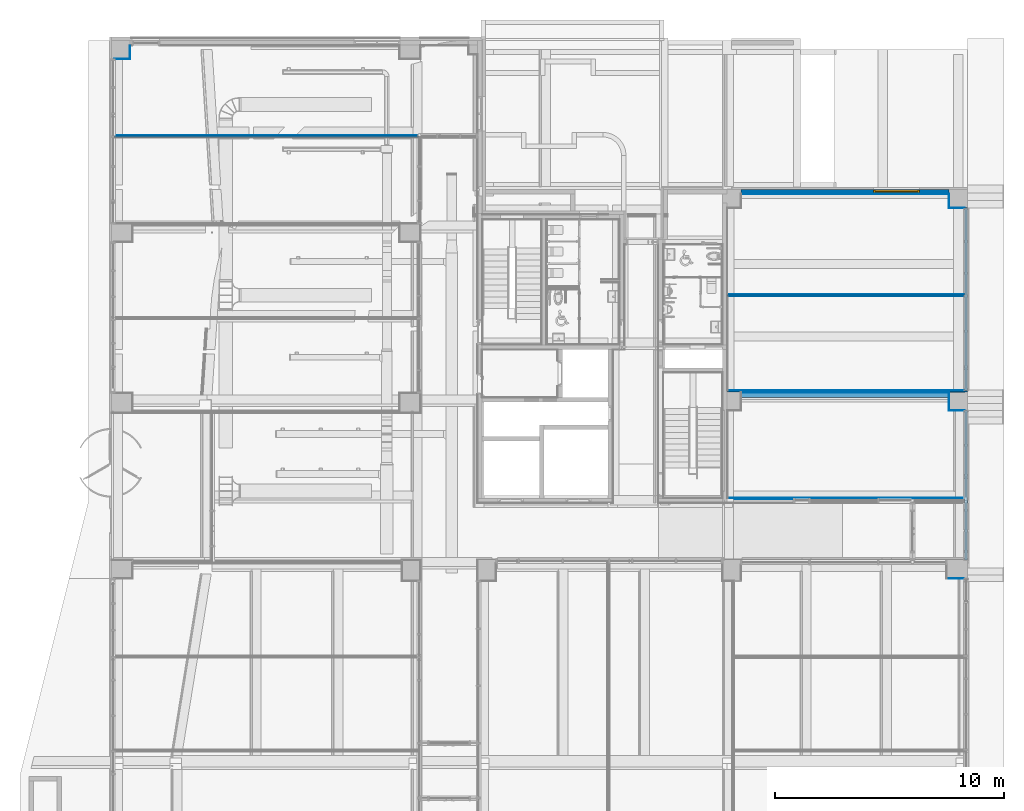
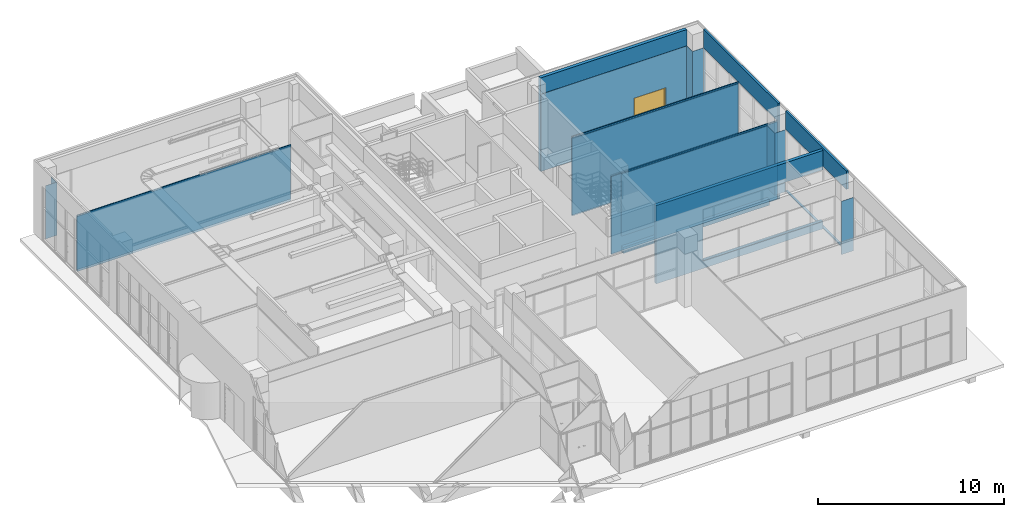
# One storey, part 52 of 100: 22 walls, 1 window, 7 openings.
"""IFC2X3 building model written with IfcOpenShell, lengths in millimetres."""

from ifc_helpers import new_model, entity, si_unit, converted_unit, derived_unit, direction, frame, frame_2d, origin, place, context, subcontext, project, spatial, polyline, rectangle, extrude, clip, bounded_halfspace, faceted_brep, source, transform, mapped, material, material_list, layer, layer_set, layer_usage, type_object, type_shapes, element, fill, save


model = new_model("IFC2X3")

# Units and contexts
model_context = context("Model", 3, precision=0.01, world=origin(), true_north=direction((6.123031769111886e-17, 1.0)))
body_context = subcontext(model_context, "Body", "Model", "MODEL_VIEW")
ifc_project = project(units=[si_unit("LENGTHUNIT", "METRE", prefix="MILLI"), si_unit("AREAUNIT", "SQUARE_METRE"), si_unit("VOLUMEUNIT", "CUBIC_METRE"), converted_unit("PLANEANGLEUNIT", "DEGREE", entity("IfcRatioMeasure", 0.017453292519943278), si_unit("PLANEANGLEUNIT", "RADIAN"), dimensions=[0, 0, 0, 0, 0, 0, 0]), si_unit("MASSUNIT", "GRAM", prefix="KILO"), derived_unit("MASSDENSITYUNIT", [(si_unit("MASSUNIT", "GRAM", prefix="KILO"), 1), (si_unit("LENGTHUNIT", "METRE"), -3)]), derived_unit("MOMENTOFINERTIAUNIT", [(si_unit("LENGTHUNIT", "METRE"), 4)]), si_unit("TIMEUNIT", "SECOND"), si_unit("FREQUENCYUNIT", "HERTZ"), si_unit("THERMODYNAMICTEMPERATUREUNIT", "DEGREE_CELSIUS"), derived_unit("THERMALTRANSMITTANCEUNIT", [(si_unit("MASSUNIT", "GRAM", prefix="KILO"), 1), (si_unit("THERMODYNAMICTEMPERATUREUNIT", "KELVIN"), -1), (si_unit("TIMEUNIT", "SECOND"), -3)]), derived_unit("VOLUMETRICFLOWRATEUNIT", [(si_unit("LENGTHUNIT", "METRE"), 3), (si_unit("TIMEUNIT", "SECOND"), -1)]), derived_unit("MASSFLOWRATEUNIT", [(si_unit("MASSUNIT", "GRAM", prefix="KILO"), 1), (si_unit("TIMEUNIT", "SECOND"), -1)]), derived_unit("ROTATIONALFREQUENCYUNIT", [(si_unit("TIMEUNIT", "SECOND"), -1)]), si_unit("ELECTRICCURRENTUNIT", "AMPERE"), si_unit("ELECTRICVOLTAGEUNIT", "VOLT"), si_unit("POWERUNIT", "WATT"), si_unit("FORCEUNIT", "NEWTON", prefix="KILO"), si_unit("ILLUMINANCEUNIT", "LUX"), si_unit("LUMINOUSFLUXUNIT", "LUMEN"), si_unit("LUMINOUSINTENSITYUNIT", "CANDELA"), derived_unit("USERDEFINED", [(si_unit("MASSUNIT", "GRAM", prefix="KILO"), -1), (si_unit("LENGTHUNIT", "METRE"), -2), (si_unit("TIMEUNIT", "SECOND"), 3), (si_unit("LUMINOUSFLUXUNIT", "LUMEN"), 1)]), derived_unit("SOUNDPOWERUNIT", [(si_unit("MASSUNIT", "GRAM", prefix="KILO"), 1), (si_unit("LENGTHUNIT", "METRE"), 2), (si_unit("TIMEUNIT", "SECOND"), -3)]), derived_unit("SOUNDPRESSUREUNIT", [(si_unit("MASSUNIT", "GRAM", prefix="KILO"), 1), (si_unit("LENGTHUNIT", "METRE"), -1), (si_unit("TIMEUNIT", "SECOND"), -2)]), derived_unit("LINEARVELOCITYUNIT", [(si_unit("LENGTHUNIT", "METRE"), 1), (si_unit("TIMEUNIT", "SECOND"), -1)]), si_unit("PRESSUREUNIT", "PASCAL"), derived_unit("USERDEFINED", [(si_unit("LENGTHUNIT", "METRE"), -2), (si_unit("MASSUNIT", "GRAM", prefix="KILO"), 1), (si_unit("TIMEUNIT", "SECOND"), -2)]), derived_unit("LINEARFORCEUNIT", [(si_unit("MASSUNIT", "GRAM", prefix="KILO"), 1), (si_unit("LENGTHUNIT", "METRE"), 1), (si_unit("TIMEUNIT", "SECOND"), -2), (si_unit("LENGTHUNIT", "METRE"), -1)]), derived_unit("PLANARFORCEUNIT", [(si_unit("MASSUNIT", "GRAM", prefix="KILO"), 1), (si_unit("LENGTHUNIT", "METRE"), 1), (si_unit("TIMEUNIT", "SECOND"), -2), (si_unit("LENGTHUNIT", "METRE"), -2)])], contexts=[model_context])

# Site, building, storey
site_placement = place(None, frame((-14167.972527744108, -657.2125860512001, 0.0)))
site = spatial("IfcSite", under=ifc_project, at=site_placement, Name="Default", CompositionType="ELEMENT")
building_placement = place(site_placement, origin())
building = spatial("IfcBuilding", under=site, at=building_placement, Name="Sample Building", CompositionType="ELEMENT")
storey_placement = place(building_placement, origin())
storey = spatial("IfcBuildingStorey", under=building, at=storey_placement, Name="지상 1층", CompositionType="ELEMENT", Elevation=0.0)

# Wall
ifc_material_1 = material(Name="KBIMS-콘크리트")
ifc_layer_1 = layer(ifc_material_1, 200.0)
ifc_layer_set_1 = layer_set([ifc_layer_1], Name="기본 벽:WA111-철근콘크리트구조 벽 200mm_CW1")
ifc_layer_usage_1 = layer_usage(ifc_layer_set_1, "AXIS2", "NEGATIVE", 100.0)
wall_type_1 = type_object("IfcWallType", Name="기본 벽:WA111-철근콘크리트구조 벽 200mm_CW1", PredefinedType="STANDARD", material=ifc_layer_set_1)
wall_1_placement = place(storey_placement, frame((41567.97247138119, 20257.212307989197, -1500.0)))
element("IfcWallStandardCase", 1, at=wall_1_placement, inside=storey, type_object=wall_type_1, material=ifc_layer_usage_1, Name="기본 벽:WA111-철근콘크리트구조 벽 200mm_CW1", ObjectType="기본 벽:WA111-철근콘크리트구조 벽 200mm_CW1", context=body_context, shape_type="SweptSolid", body=[
    extrude(rectangle(XDim=9100.00874351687, YDim=200.00000000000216, at=frame_2d((4550.004371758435, -2.1671553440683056e-12), x_axis=(-1.0, 0.0))), origin(), (0.0, 0.0, 1.0), 400.0),
])

# Wall, opening, window
ifc_layer_2 = layer(ifc_material_1, 200.0)
ifc_layer_set_2 = layer_set([ifc_layer_2], Name="기본 벽:WA111-철근콘크리트구조 벽 200mm_W1")
ifc_layer_usage_2 = layer_usage(ifc_layer_set_2, "AXIS2", "NEGATIVE", 100.0)
wall_type_2 = type_object("IfcWallType", Name="기본 벽:WA111-철근콘크리트구조 벽 200mm_W1", PredefinedType="STANDARD", material=ifc_layer_set_2)
wall_2_placement = place(storey_placement, frame((41566.972491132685, 29157.212295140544, -1500.0)))
wall_2 = element("IfcWallStandardCase", 2, at=wall_2_placement, inside=storey, type_object=wall_type_2, material=ifc_layer_usage_2, Name="기본 벽:WA111-철근콘크리트구조 벽 200mm_W1", ObjectType="기본 벽:WA111-철근콘크리트구조 벽 200mm_W1", context=body_context, shape_type="Clipping", body=[
    clip(extrude(rectangle(XDim=9101.008723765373, YDim=199.99999999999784, at=frame_2d((4550.504361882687, 0.0), x_axis=(-1.0, 0.0))), origin(), (0.0, 0.0, 1.0), 6150.000000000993), bounded_halfspace(frame((0.0, -100.0, 6150.0), z_axis=(0.0, 0.0, -1.0), x_axis=(0.0, -1.0, 0.0)), True, frame((0.0, -100.0, 6150.0), z_axis=(0.0, 0.0, -1.0), x_axis=(0.0, -1.0, 0.0)), polyline([(0.0, 0.0), (-60960.0, 0.0), (-60960.0, -2773987.459003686), (1.5757882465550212e-08, -2773987.459003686), (0.0, -299.5119162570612), (0.0, 0.0)]))),
])
opening_1_placement = place(wall_2_placement, frame((5801.0, -100.0, 1000.0)))
opening_1 = element("IfcOpeningElement", 3, at=opening_1_placement, cuts=wall_2, Name="WD842-2단 하부 더블 프로젝트 창(스테인리스 스틸):WD842-2단 하부 더블 프로젝트 창(스테인리스 스틸)_2000x1800mm:1", ObjectType="Opening", context=body_context, shape_type="SweptSolid", body=[
    extrude(rectangle(XDim=1799.9999999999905, YDim=1999.9999999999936, at=frame_2d((899.9999999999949, 999.9999999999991), x_axis=(1.0, 0.0))), frame((0.0, 0.0, 0.0), z_axis=(0.0, 1.0, 0.0), x_axis=(0.0, 0.0, 1.0)), (0.0, 0.0, 1.0), 200.0),
])
ifc_material_2 = material(Name="KBIMS-스테인리스 스틸_도금")
ifc_material_3 = material(Name="KBIMS-유리")
ifc_material_list_1 = material_list([ifc_material_2, ifc_material_3])
ifc_material_list_2 = material_list([ifc_material_2, ifc_material_3, ifc_material_2, ifc_material_3, ifc_material_2, ifc_material_2, ifc_material_3])
window_style = type_object("IfcWindowStyle", Name="WD842-2단 하부 더블 프로젝트 창(스테인리스 스틸):WD842-2단 하부 더블 프로젝트 창(스테인리스 스틸)_2000x1800mm", ConstructionType="NOTDEFINED", OperationType="NOTDEFINED", ParameterTakesPrecedence=False, Sizeable=False, material=ifc_material_list_2)
shared_shape = source(origin(), body_context, "Body", "Brep", [
    faceted_brep([(60.0, 37.49999999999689, 470.0), (60.0, 162.4999999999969, 470.0), (970.0, 162.4999999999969, 470.0), (970.0, 37.49999999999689, 470.0), (0.0, 162.4999999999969, 530.0), (0.0, 37.49999999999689, 530.0), (60.0, 37.49999999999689, 530.0), (1940.0, 37.49999999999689, 530.0), (2000.0, 37.49999999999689, 530.0), (2000.0, 162.4999999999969, 530.0), (1940.0, 162.4999999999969, 530.0), (60.0, 162.4999999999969, 530.0), (1940.0, 37.49999999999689, 470.0), (1940.0, 162.4999999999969, 470.0), (1940.0, 162.4999999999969, 60.0), (1940.0, 37.49999999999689, 60.0), (2000.0, 37.49999999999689, 0.0), (2000.0, 162.4999999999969, 0.0), (1030.0, 162.4999999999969, 60.0), (1030.0, 37.49999999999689, 60.0), (0.0, 37.49999999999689, 0.0), (0.0, 162.4999999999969, 0.0), (60.0, 37.49999999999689, 60.0), (60.0, 162.4999999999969, 60.0), (1030.0, 37.49999999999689, 470.0), (970.0, 37.49999999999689, 60.0), (1030.0, 162.4999999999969, 470.0), (970.0, 162.4999999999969, 60.0)], [[[0, 1, 2, 3]], [[4, 5, 6, 7, 8, 9, 10, 11]], [[12, 13, 14, 15]], [[9, 8, 16, 17]], [[15, 14, 18, 19]], [[17, 16, 20, 21]], [[1, 0, 22, 23]], [[8, 7, 6, 5, 20, 16], [12, 15, 19, 24], [0, 3, 25, 22]], [[5, 4, 21, 20]], [[14, 13, 26, 18], [23, 27, 2, 1], [4, 11, 10, 9, 17, 21]], [[18, 26, 24, 19]], [[2, 27, 25, 3]], [[23, 22, 25, 27]], [[13, 12, 24, 26]]], outer=[[True], [True], [True], [True], [True], [True], [True], [True, False, False], [True], [False, False, True], [True], [True], [True], [True]]),
    faceted_brep([(930.0, 151.0, 430.0), (930.0, 139.0, 430.0), (930.0, 139.0, 100.0), (930.0, 151.0, 100.0), (100.0, 139.0, 430.0), (100.0, 139.0, 100.0), (100.0, 151.0, 430.0), (100.0, 151.0, 100.0)], [[[0, 1, 2, 3]], [[1, 4, 5, 2]], [[4, 6, 7, 5]], [[0, 6, 4, 1]], [[3, 2, 5, 7]], [[6, 0, 3, 7]]]),
    faceted_brep([(110.0, 151.0, 420.0), (110.0, 160.0, 420.0), (920.0, 160.0, 420.0), (920.0, 151.0, 420.0), (100.0, 139.0, 430.0), (100.0, 151.0, 430.0), (930.0, 151.0, 430.0), (930.0, 139.0, 430.0), (110.0, 130.0, 420.0), (110.0, 139.0, 420.0), (920.0, 139.0, 420.0), (920.0, 130.0, 420.0), (60.0, 160.0, 470.0), (60.0, 130.0, 470.0), (970.0, 130.0, 470.0), (970.0, 160.0, 470.0), (920.0, 160.0, 110.0), (920.0, 151.0, 110.0), (930.0, 151.0, 100.0), (930.0, 139.0, 100.0), (920.0, 139.0, 110.0), (920.0, 130.0, 110.0), (970.0, 130.0, 60.0), (970.0, 160.0, 60.0), (110.0, 160.0, 110.0), (110.0, 151.0, 110.0), (100.0, 151.0, 100.0), (100.0, 139.0, 100.0), (110.0, 139.0, 110.0), (110.0, 130.0, 110.0), (60.0, 130.0, 60.0), (60.0, 160.0, 60.0)], [[[0, 1, 2, 3]], [[4, 5, 6, 7]], [[8, 9, 10, 11]], [[12, 13, 14, 15]], [[3, 2, 16, 17]], [[7, 6, 18, 19]], [[11, 10, 20, 21]], [[15, 14, 22, 23]], [[17, 16, 24, 25]], [[19, 18, 26, 27]], [[21, 20, 28, 29]], [[23, 22, 30, 31]], [[25, 24, 1, 0]], [[3, 17, 25, 0], [5, 26, 18, 6]], [[27, 26, 5, 4]], [[7, 19, 27, 4], [9, 28, 20, 10]], [[29, 28, 9, 8]], [[11, 21, 29, 8], [13, 30, 22, 14]], [[31, 30, 13, 12]], [[1, 24, 16, 2], [15, 23, 31, 12]]], outer=[[True], [True], [True], [True], [True], [True], [True], [True], [True], [True], [True], [True], [True], [False, True], [True], [True, False], [True], [False, True], [True], [False, True]]),
    faceted_brep([(1900.0, 151.0, 430.0), (1070.0, 151.0, 430.0), (1070.0, 139.0, 430.0), (1900.0, 139.0, 430.0), (1900.0, 151.0, 100.0), (1900.0, 139.0, 100.0), (1070.0, 139.0, 100.0), (1070.0, 151.0, 100.0)], [[[0, 1, 2, 3]], [[4, 5, 6, 7]], [[1, 0, 4, 7]], [[2, 1, 7, 6]], [[3, 2, 6, 5]], [[0, 3, 5, 4]]]),
    faceted_brep([(1070.0, 139.0, 100.0), (1070.0, 151.0, 100.0), (1070.0, 151.0, 430.0), (1070.0, 139.0, 430.0), (1890.0, 151.0, 420.0), (1890.0, 151.0, 110.0), (1080.0, 151.0, 110.0), (1080.0, 151.0, 420.0), (1900.0, 151.0, 100.0), (1900.0, 151.0, 430.0), (1080.0, 160.0, 110.0), (1080.0, 160.0, 420.0), (1890.0, 160.0, 420.0), (1890.0, 160.0, 110.0), (1900.0, 139.0, 430.0), (1900.0, 139.0, 100.0), (1890.0, 130.0, 420.0), (1890.0, 139.0, 420.0), (1890.0, 139.0, 110.0), (1890.0, 130.0, 110.0), (1080.0, 130.0, 420.0), (1080.0, 139.0, 420.0), (1030.0, 160.0, 470.0), (1030.0, 130.0, 470.0), (1940.0, 130.0, 470.0), (1940.0, 160.0, 470.0), (1940.0, 130.0, 60.0), (1940.0, 160.0, 60.0), (1080.0, 139.0, 110.0), (1080.0, 130.0, 110.0), (1030.0, 130.0, 60.0), (1030.0, 160.0, 60.0)], [[[0, 1, 2, 3]], [[4, 5, 6, 7], [2, 1, 8, 9]], [[6, 10, 11, 7]], [[4, 12, 13, 5]], [[14, 9, 8, 15]], [[16, 17, 18, 19]], [[7, 11, 12, 4]], [[3, 2, 9, 14]], [[20, 21, 17, 16]], [[22, 23, 24, 25]], [[25, 24, 26, 27]], [[5, 13, 10, 6]], [[15, 8, 1, 0]], [[19, 18, 28, 29]], [[27, 26, 30, 31]], [[14, 15, 0, 3], [21, 28, 18, 17]], [[29, 28, 21, 20]], [[16, 19, 29, 20], [23, 30, 26, 24]], [[31, 30, 23, 22]], [[11, 10, 13, 12], [25, 27, 31, 22]]], outer=[[True], [False, True], [True], [True], [True], [True], [True], [True], [True], [True], [True], [True], [True], [True], [True], [True, False], [True], [False, True], [True], [False, True]]),
    faceted_brep([(60.0, 37.50000000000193, 1740.0), (60.0, 162.50000000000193, 1740.0), (1940.0, 162.50000000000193, 1740.0), (1940.0, 37.50000000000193, 1740.0), (0.0, 162.50000000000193, 1800.0), (0.0, 37.50000000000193, 1800.0), (2000.0, 37.50000000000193, 1800.0), (2000.0, 162.50000000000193, 1800.0), (1940.0, 162.50000000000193, 530.0), (1940.0, 37.50000000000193, 530.0), (2000.0, 37.50000000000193, 530.0), (2000.0, 162.50000000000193, 530.0), (60.0, 37.50000000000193, 530.0), (60.0, 162.50000000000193, 530.0), (0.0, 37.50000000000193, 530.0), (0.0, 162.50000000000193, 530.0)], [[[0, 1, 2, 3]], [[4, 5, 6, 7]], [[3, 2, 8, 9]], [[7, 6, 10, 11]], [[1, 0, 12, 13]], [[0, 3, 9, 10, 6, 5, 14, 12]], [[5, 4, 15, 14]], [[2, 1, 13, 15, 4, 7, 11, 8]], [[13, 12, 14, 15]], [[9, 8, 11, 10]]]),
    faceted_brep([(1940.0, 106.0, 1740.0), (60.0, 106.0, 1740.0), (60.0, 94.0, 1740.0), (1940.0, 94.0, 1740.0), (1940.0, 106.0, 530.0), (60.0, 106.0, 530.0), (60.0, 94.0, 530.0), (1940.0, 94.0, 530.0)], [[[0, 1, 2, 3]], [[1, 0, 4, 5]], [[2, 1, 5, 6]], [[3, 2, 6, 7]], [[0, 3, 7, 4]], [[5, 4, 7, 6]]]),
])
type_shapes(window_style, [shared_shape])
window_placement = place(opening_1_placement, origin())
window = element("IfcWindow", 4, at=window_placement, inside=storey, type_object=window_style, material=ifc_material_list_1, Name="WD842-2단 하부 더블 프로젝트 창(스테인리스 스틸):WD842-2단 하부 더블 프로젝트 창(스테인리스 스틸)_2000x1800mm", ObjectType="WD842-2단 하부 더블 프로젝트 창(스테인리스 스틸):WD842-2단 하부 더블 프로젝트 창(스테인리스 스틸)_2000x1800mm", OverallHeight=1799.9999999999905, OverallWidth=1999.999999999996, context=body_context, shape_type="MappedRepresentation", body=[
    mapped(shared_shape, transform((0.0, 0.0, 0.0), scale=1.0)),
])
fill(opening_1, window)

# Wall, opening
ifc_layer_usage_3 = layer_usage(ifc_layer_set_2, "AXIS2", "NEGATIVE", 100.0)
wall_3_placement = place(storey_placement, frame((40967.963798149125, 15657.212295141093, -500.0)))
wall_3 = element("IfcWallStandardCase", 5, at=wall_3_placement, inside=storey, type_object=wall_type_2, material=ifc_layer_usage_3, Name="기본 벽:WA111-철근콘크리트구조 벽 200mm_W1", ObjectType="기본 벽:WA111-철근콘크리트구조 벽 200mm_W1", context=body_context, shape_type="Clipping", body=[
    clip(extrude(rectangle(XDim=10374.999999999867, YDim=200.0, at=frame_2d((5187.499999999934, 1.2647660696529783e-12), x_axis=(-1.0, 0.0))), origin(), (0.0, 0.0, 1.0), 5150.000000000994), bounded_halfspace(frame((0.0, -100.0, 5150.0), z_axis=(0.0, 0.0, -1.0), x_axis=(0.0, -1.0, 0.0)), True, frame((0.0, -100.0, 5150.0), z_axis=(0.0, 0.0, -1.0), x_axis=(0.0, -1.0, 0.0)), polyline([(0.0, 0.0), (-60960.0, 0.0), (-60960.0, -60957.36153774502), (-60960.0, -3078477.3858442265), (-60960.0, -3162300.0), (-1.3600811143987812e-09, -3162300.0), (0.0, -3078477.3858442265), (0.0, -60957.36153774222), (0.0, 0.0)]))),
])
opening_2_placement = place(wall_3_placement, origin())
element("IfcOpeningElement", 6, at=opening_2_placement, cuts=wall_3, Name="기본 벽:WA111-철근콘크리트구조 벽 200mm_W1", ObjectType="Opening", context=body_context, shape_type="SweptSolid", body=[
    extrude(rectangle(XDim=3379.999999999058, YDim=7487.491337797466, at=frame_2d((0.0, 0.0), x_axis=(0.0, 1.0))), frame((6643.754361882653, -252.39999999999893, 2190.0), z_axis=(0.0, 1.0, 0.0), x_axis=(-1.0, 0.0, 0.0)), (0.0, 0.0, 1.0), 504.8),
])

ifc_material_4 = material(Name="KBIMS-DRY WALL")
ifc_layer_3 = layer(ifc_material_4, 12.5)
ifc_material_5 = material(Name="KBIMS-경량철골벽틀")
ifc_layer_4 = layer(ifc_material_5, 50.0)
ifc_layer_set_3 = layer_set([ifc_layer_3, ifc_layer_4], Name="기본 벽:WA731-DRY WALL(C50, GS12.5mm) (1겹한면, GW50mm) 62.5mm")
ifc_layer_usage_4 = layer_usage(ifc_layer_set_3, "AXIS2", "POSITIVE", -31.250000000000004)
wall_type_3 = type_object("IfcWallType", Name="기본 벽:WA731-DRY WALL(C50, GS12.5mm) (1겹한면, GW50mm) 62.5mm", PredefinedType="STANDARD", material=ifc_layer_set_3)
wall_4_placement = place(storey_placement, frame((14192.955105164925, 31563.42774810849, 0.0)))
wall_4 = element("IfcWallStandardCase", 7, at=wall_4_placement, inside=storey, type_object=wall_type_3, material=ifc_layer_usage_4, Name="기본 벽:WA731-DRY WALL(C50, GS12.5mm) (1겹한면, GW50mm) 62.5mm", ObjectType="기본 벽:WA731-DRY WALL(C50, GS12.5mm) (1겹한면, GW50mm) 62.5mm", context=body_context, shape_type="SweptSolid", body=[
    extrude(rectangle(XDim=13285.000036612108, YDim=62.499999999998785, at=frame_2d((6642.500018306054, 1.8598456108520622e-12), x_axis=(-1.0, 0.0))), origin(), (0.0, 0.0, 1.0), 3700.000000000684),
])
opening_3_placement = place(wall_4_placement, origin())
element("IfcOpeningElement", 8, at=opening_3_placement, cuts=wall_4, Name="기본 벽:WA731-DRY WALL(C50, GS12.5mm) (1겹한면, GW50mm) 62.5mm", ObjectType="Opening", context=body_context, shape_type="SweptSolid", body=[
    extrude(rectangle(XDim=3520.000000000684, YDim=2593.153323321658, at=frame_2d((-1.1368683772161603e-13, 0.0), x_axis=(1.0, 0.0))), frame((14576.594047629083, -183.65000000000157, 1840.0), z_axis=(0.0, 1.0, 0.0), x_axis=(0.0, 0.0, 1.0)), (0.0, 0.0, 1.0), 367.2999999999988),
])

# Walls
ifc_layer_usage_5 = layer_usage(ifc_layer_set_3, "AXIS2", "NEGATIVE", 31.250000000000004)
wall_5_placement = place(storey_placement, frame((40967.963798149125, 20425.962307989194, -1500.0)))
element("IfcWallStandardCase", 9, at=wall_5_placement, inside=storey, type_object=wall_type_3, material=ifc_layer_usage_5, Name="기본 벽:WA731-DRY WALL(C50, GS12.5mm) (1겹한면, GW50mm) 62.5mm", ObjectType="기본 벽:WA731-DRY WALL(C50, GS12.5mm) (1겹한면, GW50mm) 62.5mm", context=body_context, shape_type="SweptSolid", body=[
    extrude(rectangle(XDim=62.49999999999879, YDim=10375.017416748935, at=frame_2d((-6.2500000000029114, -1033.9017416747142), x_axis=(1.0, 0.0))), frame((4153.606966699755, 6.250000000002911, 0.0), z_axis=(0.0, 0.0, 1.0), x_axis=(0.0, 1.0, 0.0)), (0.0, 0.0, 1.0), 5200.000000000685),
])
ifc_layer_usage_6 = layer_usage(ifc_layer_set_3, "AXIS2", "NEGATIVE", 31.250000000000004)
wall_6_placement = place(storey_placement, frame((40967.96379815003, 24625.927647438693, -1500.0)))
element("IfcWallStandardCase", 10, at=wall_6_placement, inside=storey, type_object=wall_type_3, material=ifc_layer_usage_6, Name="기본 벽:WA731-DRY WALL(C50, GS12.5mm) (1겹한면, GW50mm) 62.5mm", ObjectType="기본 벽:WA731-DRY WALL(C50, GS12.5mm) (1겹한면, GW50mm) 62.5mm", context=body_context, shape_type="SweptSolid", body=[
    extrude(rectangle(XDim=10337.517416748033, YDim=62.499999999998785, at=frame_2d((5168.758708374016, 1.9682033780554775e-12), x_axis=(-1.0, 0.0))), origin(), (0.0, 0.0, 1.0), 5200.000000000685),
])

# Wall, opening
ifc_layer_5 = layer(ifc_material_1, 125.00000000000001)
ifc_layer_set_4 = layer_set([ifc_layer_5], Name="기본 벽:WA111-철근콘크리트구조 벽 125mm_W3")
ifc_layer_usage_7 = layer_usage(ifc_layer_set_4, "AXIS2", "NEGATIVE", 62.50000000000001)
wall_type_4 = type_object("IfcWallType", Name="기본 벽:WA111-철근콘크리트구조 벽 125mm_W3", PredefinedType="STANDARD", material=ifc_layer_set_4)
wall_7_placement = place(storey_placement, frame((51405.48121489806, 28457.212704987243, -1500.0), z_axis=(0.0, 0.0, 1.0), x_axis=(0.0, -1.0, 0.0)))
wall_7 = element("IfcWallStandardCase", 11, at=wall_7_placement, inside=storey, type_object=wall_type_4, material=ifc_layer_usage_7, Name="기본 벽:WA111-철근콘크리트구조 벽 125mm_W3", ObjectType="기본 벽:WA111-철근콘크리트구조 벽 125mm_W3", context=body_context, shape_type="SweptSolid", body=[
    extrude(rectangle(XDim=8062.500396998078, YDim=124.99999999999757, at=frame_2d((4031.250198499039, 4.312994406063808e-12), x_axis=(-1.0, 0.0))), origin(), (0.0, 0.0, 1.0), 6300.000000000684),
])
opening_4_placement = place(wall_7_placement, origin())
element("IfcOpeningElement", 12, at=opening_4_placement, cuts=wall_7, Name="기본 벽:WA111-철근콘크리트구조 벽 125mm_W3", ObjectType="Opening", context=body_context, shape_type="SweptSolid", body=[
    extrude(rectangle(XDim=5020.000000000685, YDim=7982.000396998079, at=frame_2d((2.2737367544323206e-12, 0.0), x_axis=(0.0, 1.0))), frame((4009.0001984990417, -214.89999999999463, 2590.0), z_axis=(0.0, 1.0, 0.0), x_axis=(-1.0, 0.0, 0.0)), (0.0, 0.0, 1.0), 429.79999999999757),
])

ifc_layer_usage_8 = layer_usage(ifc_layer_set_4, "AXIS2", "NEGATIVE", 62.50000000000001)
wall_8_placement = place(storey_placement, frame((51405.463798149, 19594.712307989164, -500.0), z_axis=(0.0, 0.0, 1.0), x_axis=(0.0, -1.0, 0.0)))
wall_8 = element("IfcWallStandardCase", 13, at=wall_8_placement, inside=storey, type_object=wall_type_4, material=ifc_layer_usage_8, Name="기본 벽:WA111-철근콘크리트구조 벽 125mm_W3", ObjectType="기본 벽:WA111-철근콘크리트구조 벽 125mm_W3", context=body_context, shape_type="SweptSolid", body=[
    extrude(rectangle(XDim=6537.49926905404, YDim=124.99999999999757, at=frame_2d((3268.74963452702, 3.1228353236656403e-12), x_axis=(-1.0, 0.0))), origin(), (0.0, 0.0, 1.0), 5300.000000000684),
])
opening_5_placement = place(wall_8_placement, origin())
element("IfcOpeningElement", 14, at=opening_5_placement, cuts=wall_8, Name="기본 벽:WA111-철근콘크리트구조 벽 125mm_W3", ObjectType="Opening", context=body_context, shape_type="SweptSolid", body=[
    extrude(rectangle(XDim=4020.000000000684, YDim=6539.999999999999, at=frame_2d((0.0, 2.2737367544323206e-13), x_axis=(0.0, 1.0))), frame((3267.4999249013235, -214.89999999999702, 2090.0), z_axis=(0.0, 1.0, 0.0), x_axis=(-1.0, 0.0, 0.0)), (0.0, 0.0, 1.0), 429.79999999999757),
])

# Walls
ifc_material_6 = material(Name="WA611-수성페인트 (내부) 벽 (3회)")
ifc_layer_6 = layer(ifc_material_6, 1.0)
ifc_material_7 = material(Name="WA551-시멘트모르타르 (내부) 벽 18mm")
ifc_layer_7 = layer(ifc_material_7, 16.0)
ifc_material_8 = material(Name="WA555-콘크리트면정리 벽 (내부)")
ifc_layer_8 = layer(ifc_material_8, 1.0)
ifc_layer_set_5 = layer_set([ifc_layer_6, ifc_layer_7, ifc_layer_8], Name="기본 벽:A1-32-06A-콘크리트면정리, 시멘트모르타르(미장용), 수성페인트(내부) (18mm)")
ifc_layer_usage_9 = layer_usage(ifc_layer_set_5, "AXIS2", "POSITIVE", -9.000000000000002)
wall_type_5 = type_object("IfcWallType", Name="기본 벽:A1-32-06A-콘크리트면정리, 시멘트모르타르(미장용), 수성페인트(내부) (18mm)", PredefinedType="STANDARD", material=ifc_layer_set_5)
wall_9_placement = place(storey_placement, frame((27477.95514177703, 31603.677748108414, 80.0), z_axis=(0.0, 0.0, 1.0), x_axis=(-1.0, 0.0, 0.0)))
element("IfcWallStandardCase", 15, at=wall_9_placement, inside=storey, type_object=wall_type_5, material=ifc_layer_usage_9, Name="기본 벽:A1-32-06A-콘크리트면정리, 시멘트모르타르(미장용), 수성페인트(내부) (18mm)", ObjectType="기본 벽:A1-32-06A-콘크리트면정리, 시멘트모르타르(미장용), 수성페인트(내부) (18mm)", context=body_context, shape_type="SweptSolid", body=[
    extrude(rectangle(XDim=13285.000036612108, YDim=18.00000000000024, at=frame_2d((6642.500018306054, -2.0481394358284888e-12), x_axis=(-1.0, 0.0))), origin(), (0.0, 0.0, 1.0), 3500.0000000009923),
])
ifc_layer_usage_10 = layer_usage(ifc_layer_set_5, "AXIS2", "POSITIVE", -9.000000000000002)
wall_10_placement = place(storey_placement, frame((14192.955105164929, 34948.21228055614, 80.0)))
element("IfcWallStandardCase", 16, at=wall_10_placement, inside=storey, type_object=wall_type_5, material=ifc_layer_usage_10, Name="기본 벽:A1-32-06A-콘크리트면정리, 시멘트모르타르(미장용), 수성페인트(내부) (18mm)", ObjectType="기본 벽:A1-32-06A-콘크리트면정리, 시멘트모르타르(미장용), 수성페인트(내부) (18mm)", context=body_context, shape_type="SweptSolid", body=[
    extrude(rectangle(XDim=693.0173493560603, YDim=18.00000000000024, at=frame_2d((346.50867467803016, -2.1662671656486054e-12), x_axis=(-1.0, 0.0))), origin(), (0.0, 0.0, 1.0), 3500.0000000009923),
])
ifc_layer_usage_11 = layer_usage(ifc_layer_set_5, "AXIS2", "POSITIVE", -9.000000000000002)
wall_11_placement = place(storey_placement, frame((14876.97245452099, 34957.21228055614, 80.0), z_axis=(0.0, 0.0, 1.0), x_axis=(0.0, 1.0, 0.0)))
element("IfcWallStandardCase", 17, at=wall_11_placement, inside=storey, type_object=wall_type_5, material=ifc_layer_usage_11, Name="기본 벽:A1-32-06A-콘크리트면정리, 시멘트모르타르(미장용), 수성페인트(내부) (18mm)", ObjectType="기본 벽:A1-32-06A-콘크리트면정리, 시멘트모르타르(미장용), 수성페인트(내부) (18mm)", context=body_context, shape_type="SweptSolid", body=[
    extrude(rectangle(XDim=581.9825978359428, YDim=18.000000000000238, at=frame_2d((290.9912989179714, 0.0), x_axis=(-1.0, 0.0))), origin(), (0.0, 0.0, 1.0), 3500.0000000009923),
])
ifc_layer_usage_12 = layer_usage(ifc_layer_set_5, "AXIS2", "POSITIVE", -9.000000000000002)
wall_12_placement = place(storey_placement, frame((50567.97248530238, 12248.212729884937, 80.0)))
element("IfcWallStandardCase", 18, at=wall_12_placement, inside=storey, type_object=wall_type_5, material=ifc_layer_usage_12, Name="기본 벽:A1-32-06A-콘크리트면정리, 시멘트모르타르(미장용), 수성페인트(내부) (18mm)", ObjectType="기본 벽:A1-32-06A-콘크리트면정리, 시멘트모르타르(미장용), 수성페인트(내부) (18mm)", context=body_context, shape_type="SweptSolid", body=[
    extrude(rectangle(XDim=737.4913436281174, YDim=18.000000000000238, at=frame_2d((368.7456718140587, -5.240252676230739e-14), x_axis=(-1.0, 0.0))), origin(), (0.0, 0.0, 1.0), 3500.0000000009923),
])

# Wall, opening
ifc_layer_usage_13 = layer_usage(ifc_layer_set_5, "AXIS2", "NEGATIVE", 9.000000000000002)
wall_13_placement = place(storey_placement, frame((40985.96379814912, 15766.194878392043, -500.0)))
wall_13 = element("IfcWallStandardCase", 19, at=wall_13_placement, inside=storey, type_object=wall_type_5, material=ifc_layer_usage_13, Name="기본 벽:A1-32-06A-콘크리트면정리, 시멘트모르타르(미장용), 수성페인트(내부) (18mm)", ObjectType="기본 벽:A1-32-06A-콘크리트면정리, 시멘트모르타르(미장용), 수성페인트(내부) (18mm)", context=body_context, shape_type="SweptSolid", body=[
    extrude(rectangle(XDim=10356.99999999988, YDim=18.00000000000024, at=frame_2d((5178.49999999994, -1.7763568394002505e-15), x_axis=(-1.0, 0.0))), origin(), (0.0, 0.0, 1.0), 4080.0000000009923),
])
opening_6_placement = place(wall_13_placement, origin())
element("IfcOpeningElement", 20, at=opening_6_placement, cuts=wall_13, Name="기본 벽:A1-32-06A-콘크리트면정리, 시멘트모르타르(미장용), 수성페인트(내부) (18mm)", ObjectType="Opening", context=body_context, shape_type="SweptSolid", body=[
    extrude(rectangle(XDim=3379.999999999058, YDim=7487.491337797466, at=frame_2d((0.0, 0.0), x_axis=(0.0, 1.0))), frame((6625.754361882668, -161.40000000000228, 2190.0), z_axis=(0.0, 1.0, 0.0), x_axis=(-1.0, 0.0, 0.0)), (0.0, 0.0, 1.0), 322.80000000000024),
])

# Walls
ifc_layer_usage_14 = layer_usage(ifc_layer_set_5, "AXIS2", "POSITIVE", -9.000000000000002)
wall_14_placement = place(storey_placement, frame((41585.97247138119, 20385.71230798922, -500.0)))
element("IfcWallStandardCase", 21, at=wall_14_placement, inside=storey, type_object=wall_type_5, material=ifc_layer_usage_14, Name="기본 벽:A1-32-06A-콘크리트면정리, 시멘트모르타르(미장용), 수성페인트(내부) (18mm)", ObjectType="기본 벽:A1-32-06A-콘크리트면정리, 시멘트모르타르(미장용), 수성페인트(내부) (18mm)", context=body_context, shape_type="SweptSolid", body=[
    extrude(rectangle(XDim=9082.008743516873, YDim=18.00000000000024, at=frame_2d((4541.004371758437, -2.1662671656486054e-12), x_axis=(-1.0, 0.0))), origin(), (0.0, 0.0, 1.0), 4080.0000000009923),
])
ifc_layer_usage_15 = layer_usage(ifc_layer_set_5, "AXIS2", "POSITIVE", -9.000000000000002)
wall_15_placement = place(storey_placement, frame((50658.98121489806, 20376.712307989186, -500.0), z_axis=(0.0, 0.0, 1.0), x_axis=(0.0, -1.0, 0.0)))
element("IfcWallStandardCase", 22, at=wall_15_placement, inside=storey, type_object=wall_type_5, material=ifc_layer_usage_15, Name="기본 벽:A1-32-06A-콘크리트면정리, 시멘트모르타르(미장용), 수성페인트(내부) (18mm)", ObjectType="기본 벽:A1-32-06A-콘크리트면정리, 시멘트모르타르(미장용), 수성페인트(내부) (18mm)", context=body_context, shape_type="SweptSolid", body=[
    extrude(rectangle(XDim=800.0177257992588, YDim=17.999999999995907, at=frame_2d((400.0088628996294, 0.0), x_axis=(-1.0, 0.0))), origin(), (0.0, 0.0, 1.0), 4080.0000000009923),
])
ifc_layer_usage_16 = layer_usage(ifc_layer_set_5, "AXIS2", "POSITIVE", -9.000000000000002)
wall_16_placement = place(storey_placement, frame((50667.981214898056, 19585.69458218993, -500.0)))
element("IfcWallStandardCase", 23, at=wall_16_placement, inside=storey, type_object=wall_type_5, material=ifc_layer_usage_16, Name="기본 벽:A1-32-06A-콘크리트면정리, 시멘트모르타르(미장용), 수성페인트(내부) (18mm)", ObjectType="기본 벽:A1-32-06A-콘크리트면정리, 시멘트모르타르(미장용), 수성페인트(내부) (18mm)", context=body_context, shape_type="SweptSolid", body=[
    extrude(rectangle(XDim=674.9825832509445, YDim=18.00000000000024, at=frame_2d((337.49129162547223, -2.1662671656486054e-12), x_axis=(-1.0, 0.0))), origin(), (0.0, 0.0, 1.0), 4080.0000000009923),
])
ifc_layer_usage_17 = layer_usage(ifc_layer_set_5, "AXIS2", "POSITIVE", -9.000000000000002)
wall_17_placement = place(storey_placement, frame((40967.96379815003, 24585.677647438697, -1500.0)))
element("IfcWallStandardCase", 24, at=wall_17_placement, inside=storey, type_object=wall_type_5, material=ifc_layer_usage_17, Name="기본 벽:A1-32-06A-콘크리트면정리, 시멘트모르타르(미장용), 수성페인트(내부) (18mm)", ObjectType="기본 벽:A1-32-06A-콘크리트면정리, 시멘트모르타르(미장용), 수성페인트(내부) (18mm)", context=body_context, shape_type="SweptSolid", body=[
    extrude(rectangle(XDim=10337.517416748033, YDim=18.00000000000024, at=frame_2d((5168.758708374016, -2.2284396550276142e-12), x_axis=(-1.0, 0.0))), origin(), (0.0, 0.0, 1.0), 5080.000000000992),
])
ifc_layer_usage_18 = layer_usage(ifc_layer_set_5, "AXIS2", "NEGATIVE", 9.000000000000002)
wall_18_placement = place(storey_placement, frame((40985.96379815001, 20465.212307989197, -1500.0)))
element("IfcWallStandardCase", 25, at=wall_18_placement, inside=storey, type_object=wall_type_5, material=ifc_layer_usage_18, Name="기본 벽:A1-32-06A-콘크리트면정리, 시멘트모르타르(미장용), 수성페인트(내부) (18mm)", ObjectType="기본 벽:A1-32-06A-콘크리트면정리, 시멘트모르타르(미장용), 수성페인트(내부) (18mm)", context=body_context, shape_type="SweptSolid", body=[
    extrude(rectangle(XDim=10357.017416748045, YDim=18.000000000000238, at=frame_2d((5178.508708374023, -2.2222224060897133e-12), x_axis=(-1.0, 0.0))), origin(), (0.0, 0.0, 1.0), 5080.000000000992),
])
ifc_layer_usage_19 = layer_usage(ifc_layer_set_5, "AXIS2", "NEGATIVE", 9.000000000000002)
wall_19_placement = place(storey_placement, frame((40967.96379815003, 24665.177647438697, -1500.0)))
element("IfcWallStandardCase", 26, at=wall_19_placement, inside=storey, type_object=wall_type_5, material=ifc_layer_usage_19, Name="기본 벽:A1-32-06A-콘크리트면정리, 시멘트모르타르(미장용), 수성페인트(내부) (18mm)", ObjectType="기본 벽:A1-32-06A-콘크리트면정리, 시멘트모르타르(미장용), 수성페인트(내부) (18mm)", context=body_context, shape_type="SweptSolid", body=[
    extrude(rectangle(XDim=10337.517416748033, YDim=18.00000000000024, at=frame_2d((5168.758708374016, -2.2284396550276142e-12), x_axis=(-1.0, 0.0))), origin(), (0.0, 0.0, 1.0), 5080.000000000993),
])

# Wall, opening
ifc_layer_usage_20 = layer_usage(ifc_layer_set_5, "AXIS2", "POSITIVE", -9.000000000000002)
wall_20_placement = place(storey_placement, frame((41584.972491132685, 29048.1948783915, -1500.0)))
wall_20 = element("IfcWallStandardCase", 27, at=wall_20_placement, inside=storey, type_object=wall_type_5, material=ifc_layer_usage_20, Name="기본 벽:A1-32-06A-콘크리트면정리, 시멘트모르타르(미장용), 수성페인트(내부) (18mm)", ObjectType="기본 벽:A1-32-06A-콘크리트면정리, 시멘트모르타르(미장용), 수성페인트(내부) (18mm)", context=body_context, shape_type="SweptSolid", body=[
    extrude(rectangle(XDim=9083.008723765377, YDim=18.00000000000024, at=frame_2d((4541.5043618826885, -2.164490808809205e-12), x_axis=(-1.0, 0.0))), origin(), (0.0, 0.0, 1.0), 5080.000000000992),
])
opening_7_placement = place(wall_20_placement, origin())
element("IfcOpeningElement", 28, at=opening_7_placement, cuts=wall_20, Name="기본 벽:A1-32-06A-콘크리트면정리, 시멘트모르타르(미장용), 수성페인트(내부) (18mm)", ObjectType="Opening", context=body_context, shape_type="SweptSolid", body=[
    extrude(rectangle(XDim=1799.9999999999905, YDim=1999.999999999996, at=frame_2d((-5.684341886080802e-14, 0.0), x_axis=(1.0, 0.0))), frame((6783.0, -1514.9825832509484, 1900.0), z_axis=(0.0, 1.0, 0.0), x_axis=(0.0, 0.0, 1.0)), (0.0, 0.0, 1.0), 3048.0),
])

# Walls
ifc_layer_usage_21 = layer_usage(ifc_layer_set_5, "AXIS2", "POSITIVE", -9.000000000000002)
wall_21_placement = place(storey_placement, frame((50658.98121489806, 29039.194878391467, -1500.0), z_axis=(0.0, 0.0, 1.0), x_axis=(0.0, -1.0, 0.0)))
element("IfcWallStandardCase", 29, at=wall_21_placement, inside=storey, type_object=wall_type_5, material=ifc_layer_usage_21, Name="기본 벽:A1-32-06A-콘크리트면정리, 시멘트모르타르(미장용), 수성페인트(내부) (18mm)", ObjectType="기본 벽:A1-32-06A-콘크리트면정리, 시멘트모르타르(미장용), 수성페인트(내부) (18mm)", context=body_context, shape_type="SweptSolid", body=[
    extrude(rectangle(XDim=599.9821734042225, YDim=17.999999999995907, at=frame_2d((299.99108670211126, 0.0), x_axis=(-1.0, 0.0))), origin(), (0.0, 0.0, 1.0), 5080.000000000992),
])
ifc_layer_usage_22 = layer_usage(ifc_layer_set_5, "AXIS2", "POSITIVE", -9.000000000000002)
wall_22_placement = place(storey_placement, frame((50667.981214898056, 28448.212704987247, -1500.0)))
element("IfcWallStandardCase", 30, at=wall_22_placement, inside=storey, type_object=wall_type_5, material=ifc_layer_usage_22, Name="기본 벽:A1-32-06A-콘크리트면정리, 시멘트모르타르(미장용), 수성페인트(내부) (18mm)", ObjectType="기본 벽:A1-32-06A-콘크리트면정리, 시멘트모르타르(미장용), 수성페인트(내부) (18mm)", context=body_context, shape_type="SweptSolid", body=[
    extrude(rectangle(XDim=675.0000000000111, YDim=18.00000000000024, at=frame_2d((337.50000000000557, -2.1662671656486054e-12), x_axis=(-1.0, 0.0))), origin(), (0.0, 0.0, 1.0), 5080.000000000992),
])

save(model, "model.ifc")
